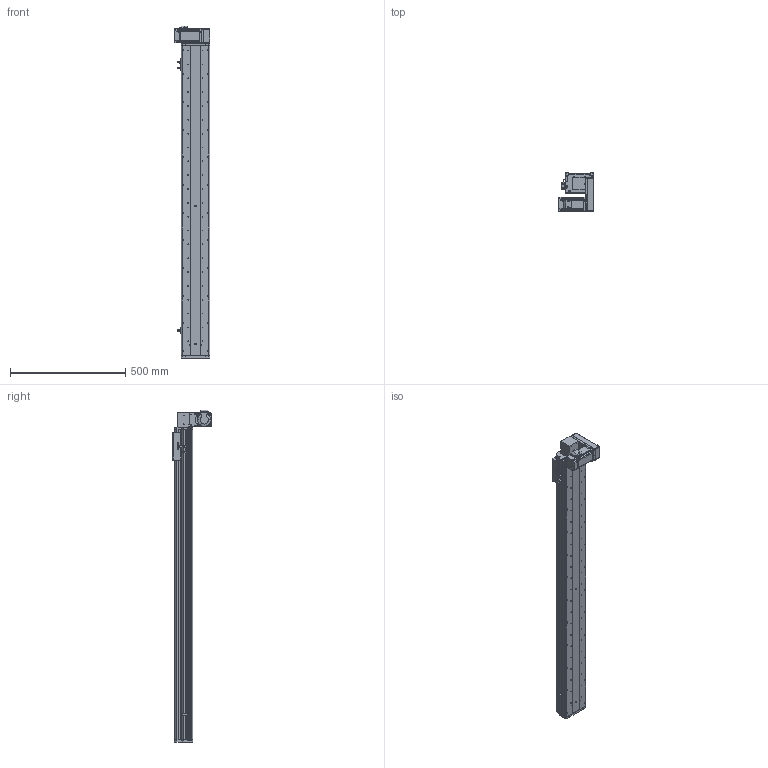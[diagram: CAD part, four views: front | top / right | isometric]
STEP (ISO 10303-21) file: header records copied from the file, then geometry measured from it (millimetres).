
FILE_DESCRIPTION (( 'STEP AP214' ), '1' );
FILE_NAME ('KSD125B-S1150-MLD-CM.STEP', '2017-10-21T02:57:53', ( '微软用户' ), ( '微软中国' ), 'SwSTEP 2.0', 'SolidWorks 2014', '' );
FILE_SCHEMA (( 'AUTOMOTIVE_DESIGN' ));
Length unit declared in the file: millimetre
Products named in the file (17): KSD125模组同步带-滑动座1; KSD125B-S1150-MLD-CM; 悵誘欶奻狟殏; 100宽马达安装板连板上下折丝杆同步带; HTPA30S3M150_A_H6_a佪裝蚚; HTPA30S3M150_A_H6_a萇儂蚚; 100宽马达安装板同步带左; KSD125模组1150行程同步带-防尘盖; 125模组1150行程同步带-底板; MHMD042G1CA_2_03; KSD125模组同步带-防撞垫2; 覜茼え68遵圉猾敕; U倰嫖萇假蚾璃; U倰嫖萇EEㄜSX672; KSD125模组同步带-防撞垫1; 前端板-125宽模组同步带; 125模组同步带-尾端板1
Assembly tree (20 placements, depth 2):
  KSD125B-S1150-MLD-CM
    KSD125模组同步带-滑动座1
    125模组同步带-尾端板1
    前端板-125宽模组同步带
    KSD125模组同步带-防撞垫1
    U倰嫖萇EEㄜSX672  x3
    U倰嫖萇假蚾璃  x3
    覜茼え68遵圉猾敕
    KSD125模组同步带-防撞垫2
    MHMD042G1CA_2_03
    125模组1150行程同步带-底板
    KSD125模组1150行程同步带-防尘盖
    100宽马达安装板同步带左
    HTPA30S3M150_A_H6_a萇儂蚚
    HTPA30S3M150_A_H6_a佪裝蚚
    100宽马达安装板连板上下折丝杆同步带
    悵誘欶奻狟殏
Bounding box: 155 x 166.5 x 1439 mm (x, y, z)
Volume: 4324261 mm3; surface area: 1447773.7 mm2
Topology: 19 solids, 22 shells, 2343 faces, 6793 edges, 4490 vertices
Faces by surface type: cylinder 1484, plane 732, cone 105, bspline 22
Entity records: 83651 total; most frequent: CARTESIAN_POINT 16491, DIRECTION 12998, ORIENTED_EDGE 12106, EDGE_CURVE 6131, AXIS2_PLACEMENT_3D 5037, VERTEX_POINT 4082, LINE 2924, VECTOR 2924
